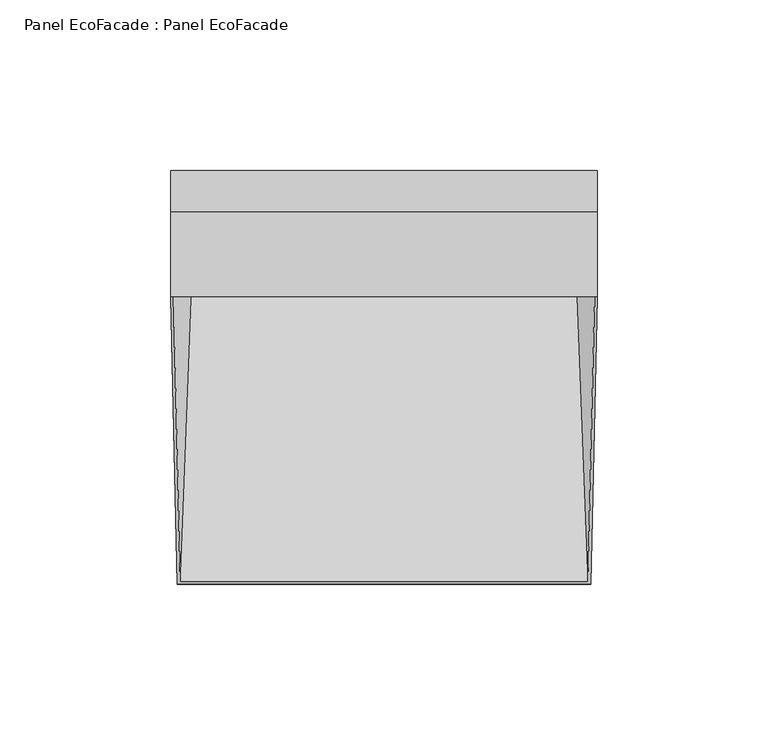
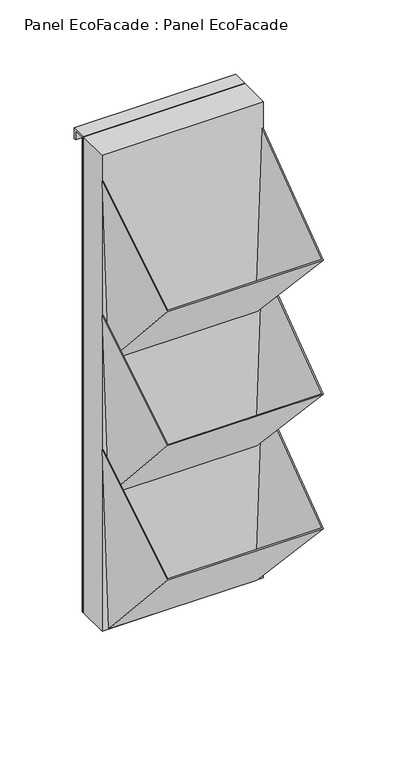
"""IFC4 building model written with IfcOpenShell, lengths in millimetres: plate geometry, Panel EcoFacade : Panel EcoFacade."""

from ifc_helpers import new_model, si_unit, frame, origin, origin_with_axes, place, context, project, spatial, polyline, outline, extrude, faceted_brep, source, transform, mapped, element, save


def panel_ecofacade_panel_ecofacade_c2fa214b(model_context):
    return source(origin(), model_context, "Body", "SolidModel", [
        faceted_brep([(-61.680785, 0.0, 368.5882353), (-56.5333837, 0.0, 221.185948), (56.5333837, 0.0, 221.185948), (61.680785, 0.0, 368.5882353), (62.4812727, 0.0, 368.5882353), (57.2924572, 0.0, 220.0), (-57.2924572, 0.0, 220.0), (-62.4812727, 0.0, 368.5882353), (-60.5102218, -84.2, 312.1447224), (-59.725466, -83.5279628, 312.5952229), (60.5102218, -84.2, 312.1447224), (59.725466, -83.5279628, 312.5952229)], [[[0, 1, 2, 3, 4, 5, 6, 7]], [[6, 8, 7]], [[1, 0, 9]], [[0, 7, 8, 10, 4, 3, 11, 9]], [[5, 10, 8, 6]], [[1, 9, 11, 2]], [[4, 10, 5]], [[3, 2, 11]]]),
        faceted_brep([(-61.680785, 0.0, 258.5882353), (-56.5333837, 0.0, 111.185948), (56.5333837, 0.0, 111.185948), (61.680785, 0.0, 258.5882353), (62.4812727, 0.0, 258.5882353), (57.2924572, 0.0, 110.0), (-57.2924572, 0.0, 110.0), (-62.4812727, 0.0, 258.5882353), (-60.5102218, -84.2, 202.1447224), (-59.725466, -83.5279628, 202.5952229), (60.5102218, -84.2, 202.1447224), (59.725466, -83.5279628, 202.5952229)], [[[0, 1, 2, 3, 4, 5, 6, 7]], [[6, 8, 7]], [[1, 0, 9]], [[0, 7, 8, 10, 4, 3, 11, 9]], [[5, 10, 8, 6]], [[1, 9, 11, 2]], [[4, 10, 5]], [[3, 2, 11]]]),
        faceted_brep([(-61.680785, 0.0, 148.5882353), (-56.5333837, 0.0, 1.185948), (56.5333837, 0.0, 1.185948), (61.680785, 0.0, 148.5882353), (62.4812727, 0.0, 148.5882353), (57.2924572, 0.0, 0.0), (-57.2924572, 0.0, 0.0), (-62.4812727, 0.0, 148.5882353), (-60.5102218, -84.2, 92.1447224), (-59.725466, -83.5279628, 92.5952229), (60.5102218, -84.2, 92.1447224), (59.725466, -83.5279628, 92.5952229)], [[[0, 1, 2, 3, 4, 5, 6, 7]], [[6, 8, 7]], [[1, 0, 9]], [[0, 7, 8, 10, 4, 3, 11, 9]], [[5, 10, 8, 6]], [[1, 9, 11, 2]], [[4, 10, 5]], [[3, 2, 11]]]),
        extrude(outline(polyline([(26.5, 0.0), (25.0, 0.0), (25.0, 390.0), (37.0, 390.0), (37.0, 381.0), (35.5, 381.0), (35.5, 388.5), (26.5, 388.5), (26.5, 0.0)])), frame((-62.5, 0.0, 0.0), z_axis=(1.0, 0.0, 0.0), x_axis=(0.0, 1.0, 0.0)), (0.0, 0.0, 1.0), 125.0),
        extrude(outline(polyline([(62.5, 25.0), (62.5, 0.0), (-62.5, 0.0), (-62.5, 25.0), (62.5, 25.0)])), origin_with_axes(), (0.0, 0.0, 1.0), 390.0),
    ])


if __name__ == "__main__":
    model = new_model("IFC4")
    model_context = context("Model", 3, world=origin())
    ifc_project = project(units=[si_unit("LENGTHUNIT", "METRE", prefix="MILLI")], contexts=[model_context])
    site = spatial("IfcSite", under=ifc_project)
    building = spatial("IfcBuilding", under=site)
    placement = place(None, origin())
    panel_ecofacade_panel_ecofacade_shape = panel_ecofacade_panel_ecofacade_c2fa214b(model_context)
    element("IfcPlate", 1, ObjectType="Panel EcoFacade : Panel EcoFacade", at=placement, inside=building, context=model_context, shape_type="MappedRepresentation", body=[
        mapped(panel_ecofacade_panel_ecofacade_shape, transform((0.0, 0.0, 0.0), x_axis=(1.0, 0.0, 0.0), y_axis=(0.0, 1.0, 0.0), z_axis=(0.0, 0.0, 1.0))),
    ])
    save(model, "model.ifc")
